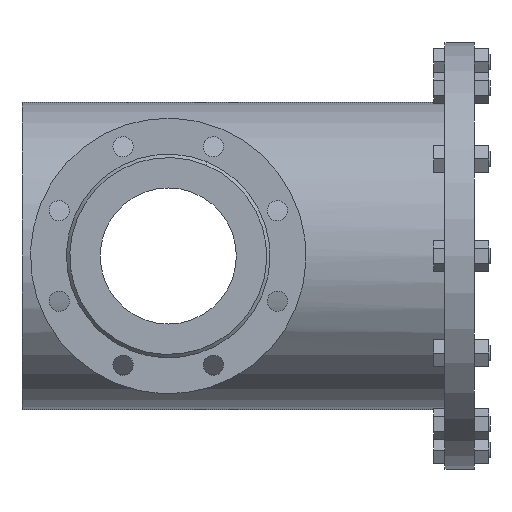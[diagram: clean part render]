
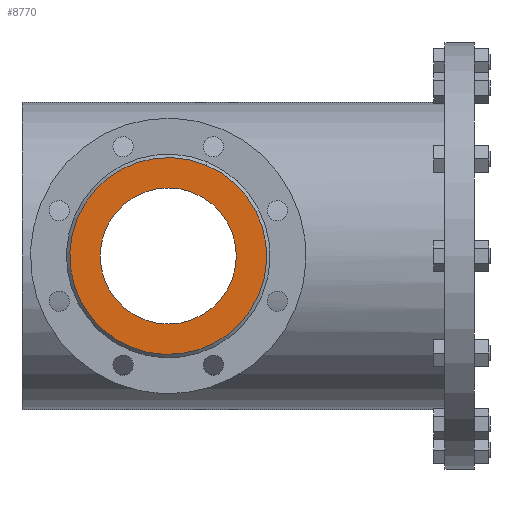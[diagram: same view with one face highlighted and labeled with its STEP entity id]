
A CAD part, left-side view. The second image highlights one B-rep face of the part: STEP entity #8770.
In plain terms, the highlighted planar face has unit normal (-1, 0, 0).
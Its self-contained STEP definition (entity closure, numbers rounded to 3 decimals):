
#346 = EDGE_LOOP ( 'NONE', ( #4431, #2770 ) ) ;
#618 = DIRECTION ( 'NONE',  ( -1., 0., 0. ) ) ;
#716 = AXIS2_PLACEMENT_3D ( 'NONE', #1883, #6025, #5442 ) ;
#1184 = CARTESIAN_POINT ( 'NONE',  ( -237.5, 250., 60.5 ) ) ;
#1347 = AXIS2_PLACEMENT_3D ( 'NONE', #7860, #4275, #1501 ) ;
#1416 = EDGE_CURVE ( 'NONE', #5906, #1490, #7983, .T. ) ;
#1490 = VERTEX_POINT ( 'NONE', #4796 ) ;
#1501 = DIRECTION ( 'NONE',  ( 0., -0.383, 0.924 ) ) ;
#1541 = FACE_BOUND ( 'NONE', #346, .T. ) ;
#1883 = CARTESIAN_POINT ( 'NONE',  ( -237.5, 250., 0. ) ) ;
#2513 = CIRCLE ( 'NONE', #3663, 60.5 ) ;
#2579 = DIRECTION ( 'NONE',  ( 0., 0., 1. ) ) ;
#2656 = CARTESIAN_POINT ( 'NONE',  ( -237.5, 250., 0. ) ) ;
#2770 = ORIENTED_EDGE ( 'NONE', *, *, #6194, .F. ) ;
#2850 = FACE_OUTER_BOUND ( 'NONE', #7930, .T. ) ;
#2987 = DIRECTION ( 'NONE',  ( -1., 0., 0. ) ) ;
#3663 = AXIS2_PLACEMENT_3D ( 'NONE', #2656, #618, #8987 ) ;
#3820 = CARTESIAN_POINT ( 'NONE',  ( -237.5, 216.515, 80.839 ) ) ;
#4158 = CARTESIAN_POINT ( 'NONE',  ( -237.5, 250., -60.5 ) ) ;
#4272 = DIRECTION ( 'NONE',  ( 0., 0., 1. ) ) ;
#4275 = DIRECTION ( 'NONE',  ( -1., 0., 0. ) ) ;
#4305 = AXIS2_PLACEMENT_3D ( 'NONE', #8532, #2987, #4272 ) ;
#4431 = ORIENTED_EDGE ( 'NONE', *, *, #6900, .F. ) ;
#4796 = CARTESIAN_POINT ( 'NONE',  ( -237.5, 283.485, -80.839 ) ) ;
#5442 = DIRECTION ( 'NONE',  ( 0., -0.383, 0.924 ) ) ;
#5906 = VERTEX_POINT ( 'NONE', #3820 ) ;
#6025 = DIRECTION ( 'NONE',  ( -1., 0., 0. ) ) ;
#6149 = CIRCLE ( 'NONE', #1347, 87.5 ) ;
#6194 = EDGE_CURVE ( 'NONE', #8997, #8478, #6289, .T. ) ;
#6289 = CIRCLE ( 'NONE', #8756, 60.5 ) ;
#6640 = EDGE_CURVE ( 'NONE', #1490, #5906, #6149, .T. ) ;
#6900 = EDGE_CURVE ( 'NONE', #8478, #8997, #2513, .T. ) ;
#7361 = ORIENTED_EDGE ( 'NONE', *, *, #6640, .T. ) ;
#7860 = CARTESIAN_POINT ( 'NONE',  ( -237.5, 250., 0. ) ) ;
#7930 = EDGE_LOOP ( 'NONE', ( #7361, #8682 ) ) ;
#7983 = CIRCLE ( 'NONE', #716, 87.5 ) ;
#8097 = CARTESIAN_POINT ( 'NONE',  ( -237.5, 250., 0. ) ) ;
#8405 = PLANE ( 'NONE',  #4305 ) ;
#8478 = VERTEX_POINT ( 'NONE', #1184 ) ;
#8532 = CARTESIAN_POINT ( 'NONE',  ( -237.5, 250., 0. ) ) ;
#8682 = ORIENTED_EDGE ( 'NONE', *, *, #1416, .T. ) ;
#8756 = AXIS2_PLACEMENT_3D ( 'NONE', #8097, #8862, #2579 ) ;
#8770 = ADVANCED_FACE ( 'NONE', ( #1541, #2850 ), #8405, .T. ) ;
#8862 = DIRECTION ( 'NONE',  ( -1., 0., 0. ) ) ;
#8987 = DIRECTION ( 'NONE',  ( 0., 0., 1. ) ) ;
#8997 = VERTEX_POINT ( 'NONE', #4158 ) ;
